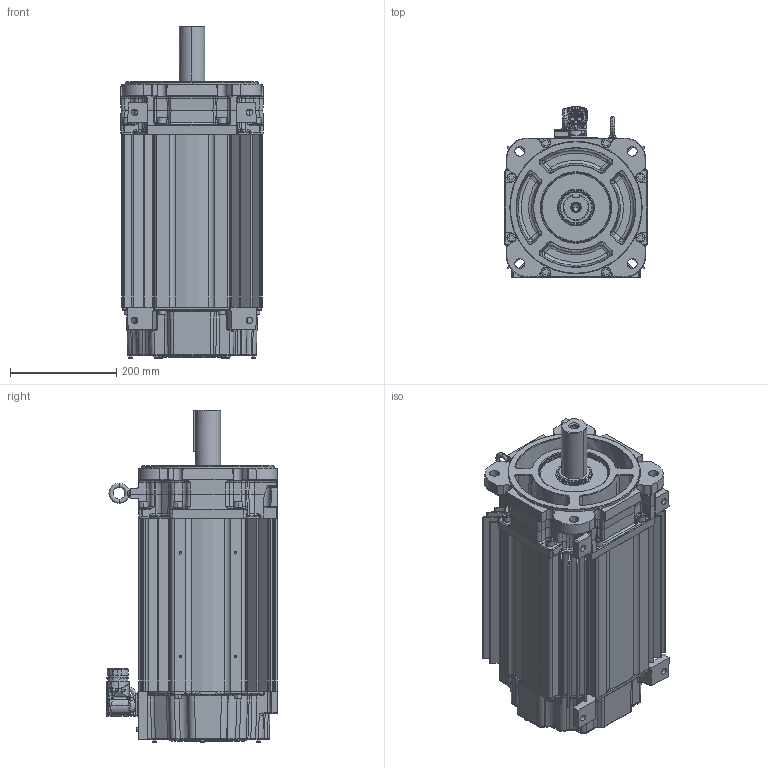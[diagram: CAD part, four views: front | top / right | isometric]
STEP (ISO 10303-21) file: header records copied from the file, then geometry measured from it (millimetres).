
FILE_DESCRIPTION((''),'2;1');
FILE_NAME('10005239736_ASM','2020-01-16T11:31:21',('VThimma'),('Rockwell Automation'),'CREO PARAMETRIC BY PTC INC, 2017380','CREO PARAMETRIC BY PTC INC, 2017380','');
FILE_SCHEMA(('CONFIG_CONTROL_DESIGN','SHAPE_APPEARANCE_LAYERS_GROUPS'));
Products named in the file (21): 10001441958; 10001404634_AF0; 10001404629_AF6; 10001404635_ASM; 10001585735; 10001442012_ASM; 10001439798; 10001440031_ASM; 10001405269_AF27; 10001405369_ASM; 10001586887; 0002-5004; 10001609981; 10001737030; 10000801000; 10000801001; 10000801002_ASM; 221404-Q12; 10001408124; 0011-2084; 10005239736_ASM
Assembly tree (43 placements, depth 4):
  10005239736_ASM
    10001442012_ASM
      10001441958
      10001404635_ASM
        10001404634_AF0
        10001404629_AF6
      10001585735  x8
    10001440031_ASM
      10001439798
    10001405369_ASM
      10001405269_AF27
    10001586887  x7
    0002-5004  x2
    10001609981
    10001737030
    10000801002_ASM
      10000801000
      10000801001
    221404-Q12  x10
    10001408124
    0011-2084
Bounding box: 269.49 x 324.1 x 626.33 mm (x, y, z)
Surface area: 2022553.2 mm2 (no closed solid volume)
Topology: 0 solids, 41 shells, 4485 faces, 11171 edges, 6827 vertices
Faces by surface type: cylinder 1433, plane 1237, bspline 755, torus 547, cone 442, sphere 64, extrusion 7
Entity records: 185225 total; most frequent: CARTESIAN_POINT 54052, ORIENTED_EDGE 17404, DIRECTION 16316, PRESENTATION_STYLE_ASSIGNMENT 12165, STYLED_ITEM 12165, CURVE_STYLE 8713, EDGE_CURVE 8706, AXIS2_PLACEMENT_3D 6399
